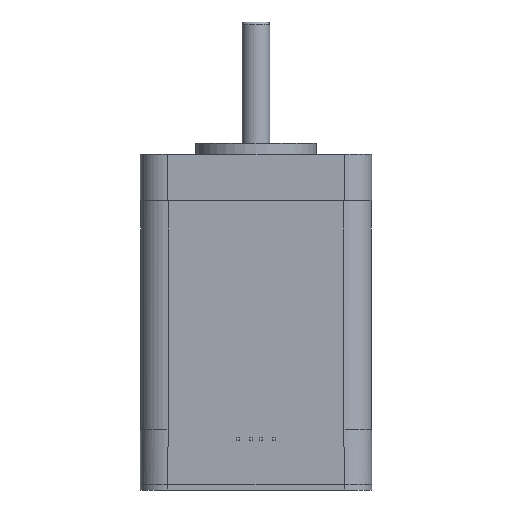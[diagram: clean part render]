
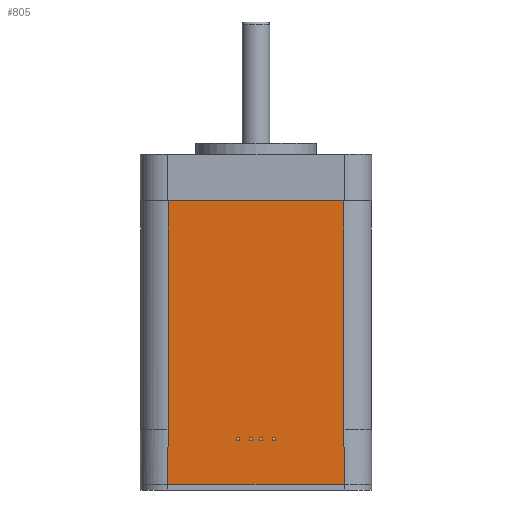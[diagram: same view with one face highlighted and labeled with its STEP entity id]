
A CAD part, front view. The second image highlights one B-rep face of the part: STEP entity #805.
In plain terms, the highlighted planar face has unit normal (0, -1, 0).
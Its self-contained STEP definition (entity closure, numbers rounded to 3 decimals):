
#327 = VECTOR ( 'NONE', #2585, 1000. ) ;
#399 = CARTESIAN_POINT ( 'NONE',  ( -15.95, -20.95, 0. ) ) ;
#805 = ADVANCED_FACE ( 'NONE', ( #4753 ), #1615, .F. ) ;
#873 = LINE ( 'NONE', #1802, #5082 ) ;
#941 = CARTESIAN_POINT ( 'NONE',  ( 15.95, -20.95, -8.5 ) ) ;
#1227 = DIRECTION ( 'NONE',  ( 0., 1., 0. ) ) ;
#1290 = VECTOR ( 'NONE', #3170, 1000. ) ;
#1553 = VERTEX_POINT ( 'NONE', #4089 ) ;
#1583 = CARTESIAN_POINT ( 'NONE',  ( -15.975, -20.95, -50. ) ) ;
#1593 = EDGE_CURVE ( 'NONE', #3106, #1553, #2021, .T. ) ;
#1615 = PLANE ( 'NONE',  #1833 ) ;
#1767 = VECTOR ( 'NONE', #2200, 1000. ) ;
#1783 = VERTEX_POINT ( 'NONE', #1583 ) ;
#1802 = CARTESIAN_POINT ( 'NONE',  ( 15.95, -20.95, 0. ) ) ;
#1813 = CARTESIAN_POINT ( 'NONE',  ( 0., -20.95, -60. ) ) ;
#1824 = ORIENTED_EDGE ( 'NONE', *, *, #4401, .F. ) ;
#1833 = AXIS2_PLACEMENT_3D ( 'NONE', #2409, #1227, #4431 ) ;
#1846 = EDGE_CURVE ( 'NONE', #1553, #1783, #3687, .T. ) ;
#1893 = ORIENTED_EDGE ( 'NONE', *, *, #1846, .F. ) ;
#2021 = LINE ( 'NONE', #1813, #1767 ) ;
#2200 = DIRECTION ( 'NONE',  ( -1., 0., 0. ) ) ;
#2399 = EDGE_CURVE ( 'NONE', #3680, #3196, #4684, .T. ) ;
#2409 = CARTESIAN_POINT ( 'NONE',  ( 0., -20.95, 0. ) ) ;
#2499 = ORIENTED_EDGE ( 'NONE', *, *, #4656, .F. ) ;
#2585 = DIRECTION ( 'NONE',  ( 1., 0., 0. ) ) ;
#2587 = VECTOR ( 'NONE', #2841, 1000. ) ;
#2592 = VERTEX_POINT ( 'NONE', #4357 ) ;
#2668 = CARTESIAN_POINT ( 'NONE',  ( 16., -20.95, 0. ) ) ;
#2841 = DIRECTION ( 'NONE',  ( 0., 0., 1. ) ) ;
#2903 = CARTESIAN_POINT ( 'NONE',  ( -15.95, -20.95, -8.5 ) ) ;
#2915 = ORIENTED_EDGE ( 'NONE', *, *, #1593, .F. ) ;
#2940 = VECTOR ( 'NONE', #3494, 1000. ) ;
#3106 = VERTEX_POINT ( 'NONE', #4430 ) ;
#3170 = DIRECTION ( 'NONE',  ( 0., 0., 1. ) ) ;
#3196 = VERTEX_POINT ( 'NONE', #941 ) ;
#3311 = LINE ( 'NONE', #399, #1290 ) ;
#3362 = ORIENTED_EDGE ( 'NONE', *, *, #3534, .F. ) ;
#3494 = DIRECTION ( 'NONE',  ( 0., 0., -1. ) ) ;
#3534 = EDGE_CURVE ( 'NONE', #1783, #3680, #3311, .T. ) ;
#3680 = VERTEX_POINT ( 'NONE', #2903 ) ;
#3687 = LINE ( 'NONE', #4422, #2587 ) ;
#4005 = LINE ( 'NONE', #2668, #2940 ) ;
#4089 = CARTESIAN_POINT ( 'NONE',  ( -16., -20.95, -60. ) ) ;
#4357 = CARTESIAN_POINT ( 'NONE',  ( 15.975, -20.95, -50. ) ) ;
#4401 = EDGE_CURVE ( 'NONE', #2592, #3106, #4005, .T. ) ;
#4422 = CARTESIAN_POINT ( 'NONE',  ( -16., -20.95, 0. ) ) ;
#4430 = CARTESIAN_POINT ( 'NONE',  ( 16., -20.95, -60. ) ) ;
#4431 = DIRECTION ( 'NONE',  ( 0., 0., 1. ) ) ;
#4656 = EDGE_CURVE ( 'NONE', #3196, #2592, #873, .T. ) ;
#4684 = LINE ( 'NONE', #5010, #327 ) ;
#4724 = EDGE_LOOP ( 'NONE', ( #1893, #2915, #1824, #2499, #4970, #3362 ) ) ;
#4753 = FACE_OUTER_BOUND ( 'NONE', #4724, .T. ) ;
#4970 = ORIENTED_EDGE ( 'NONE', *, *, #2399, .F. ) ;
#5010 = CARTESIAN_POINT ( 'NONE',  ( 0., -20.95, -8.5 ) ) ;
#5017 = DIRECTION ( 'NONE',  ( 0., 0., -1. ) ) ;
#5082 = VECTOR ( 'NONE', #5017, 1000. ) ;
